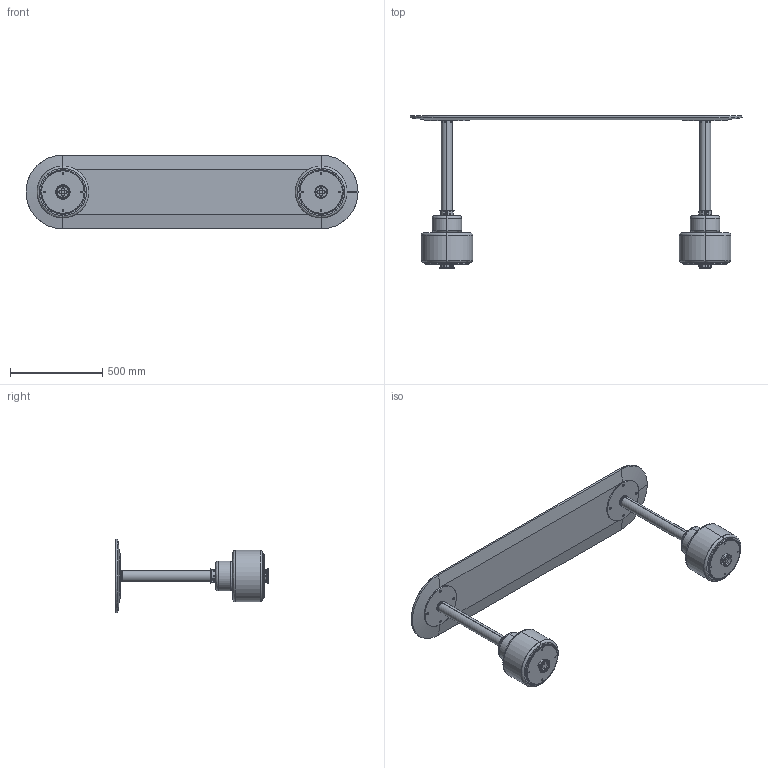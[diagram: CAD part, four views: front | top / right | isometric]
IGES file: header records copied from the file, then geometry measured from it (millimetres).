
Start section: SolidWorks IGES file using analytic representation for surfaces
Global section: file name: C:\Users\SoldaClaudio\Desktop\MENHIR\3D\004234.IGS; native system: SolidWorks 2019; preprocessor: SolidWorks 2019; author: SoldaClaudio; date: 201218.105321; units: millimetre
Bounding box: 1800 x 825.01 x 400 mm (x, y, z)
Surface area: 3412829 mm2 (no closed solid volume)
Topology: 0 solids, 0 shells, 919 faces, 15281 edges, 15281 vertices
Faces by surface type: bspline 646, revolution 273
